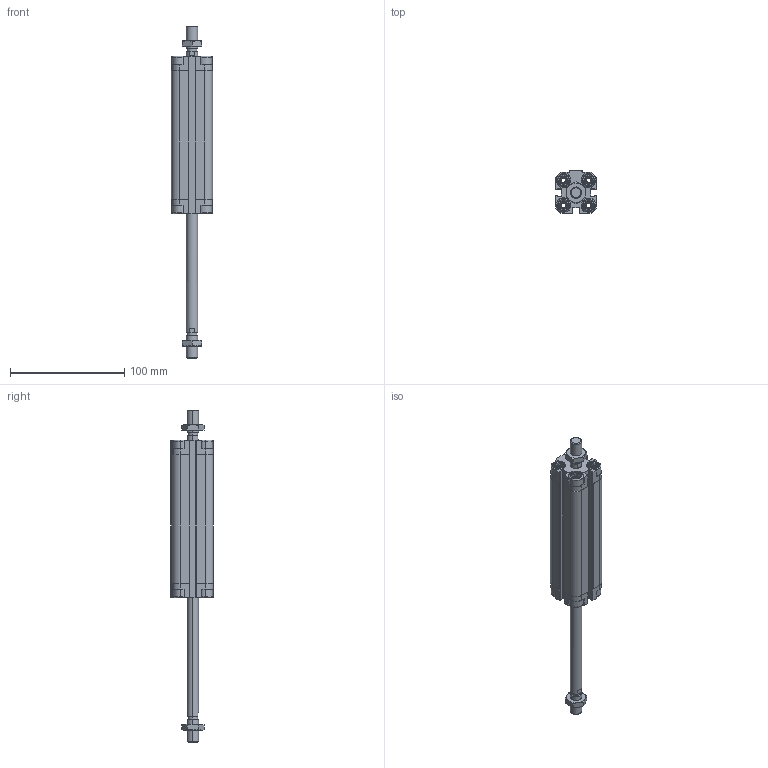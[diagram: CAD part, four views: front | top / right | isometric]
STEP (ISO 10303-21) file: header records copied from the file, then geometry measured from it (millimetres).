
FILE_DESCRIPTION (( 'STEP AP203' ), '1' );
FILE_NAME ('CDVU20-100M-P.STEP', '2020-07-21T15:09:31', ( '' ), ( '' ), 'SwSTEP 2.0', 'SolidWorks 2019', '' );
FILE_SCHEMA (( 'CONFIG_CONTROL_DESIGN' ));
Length unit declared in the file: millimetre
Products named in the file (1): CDVU20-100M-P
Bounding box: 36 x 37.5 x 291 mm (x, y, z)
Volume: 126298.5 mm3; surface area: 61125.2 mm2
Topology: 4 solids, 4 shells, 642 faces, 1674 edges, 1078 vertices
Faces by surface type: plane 374, cylinder 188, cone 64, torus 16
Entity records: 20369 total; most frequent: CARTESIAN_POINT 4535, ORIENTED_EDGE 3340, DIRECTION 3212, EDGE_CURVE 1670, AXIS2_PLACEMENT_3D 1115, VERTEX_POINT 1078, LINE 982, VECTOR 982
